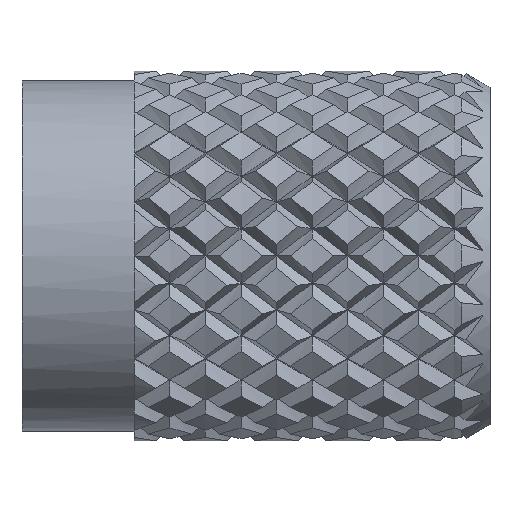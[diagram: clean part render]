
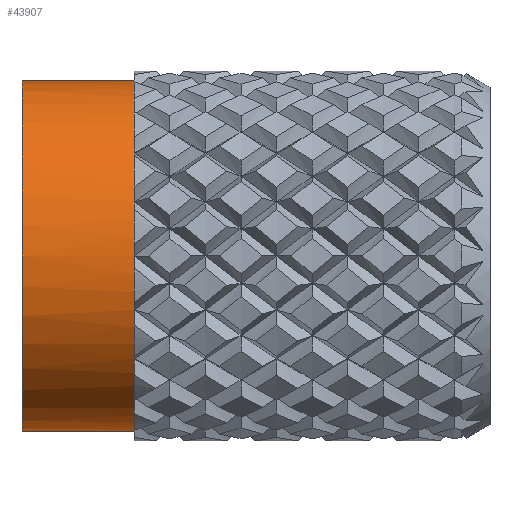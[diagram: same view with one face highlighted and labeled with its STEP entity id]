
A CAD part, left-side view. The second image highlights one B-rep face of the part: STEP entity #43907.
In plain terms, the highlighted cylindrical face has radius 2.375 mm (diameter 4.75 mm), a partial arc.
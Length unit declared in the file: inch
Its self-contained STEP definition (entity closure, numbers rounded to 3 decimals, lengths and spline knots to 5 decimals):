
#578 = EDGE_CURVE ( 'NONE', #7670, #55384, #8627, .T. ) ;
#818 = AXIS2_PLACEMENT_3D ( 'NONE', #40573, #10829, #20335 ) ;
#1117 = CIRCLE ( 'NONE', #50202, 0.0935 ) ;
#1258 = LINE ( 'NONE', #62562, #55220 ) ;
#2823 = DIRECTION ( 'NONE',  ( 0., 1., 0. ) ) ;
#4204 = AXIS2_PLACEMENT_3D ( 'NONE', #42709, #52797, #13147 ) ;
#4586 = AXIS2_PLACEMENT_3D ( 'NONE', #4939, #54702, #54910 ) ;
#4623 = VERTEX_POINT ( 'NONE', #38920 ) ;
#4939 = CARTESIAN_POINT ( 'NONE',  ( 0., -0.06, 0. ) ) ;
#5234 = CARTESIAN_POINT ( 'NONE',  ( -0.02889, -0.06, 0.08892 ) ) ;
#5899 = DIRECTION ( 'NONE',  ( 0., 0., 1. ) ) ;
#7510 = CARTESIAN_POINT ( 'NONE',  ( -0.08892, -0.06, 0.02889 ) ) ;
#7670 = VERTEX_POINT ( 'NONE', #54111 ) ;
#8196 = DIRECTION ( 'NONE',  ( 0., 0., 1. ) ) ;
#8627 = CIRCLE ( 'NONE', #57653, 0.0935 ) ;
#8864 = DIRECTION ( 'NONE',  ( 0., 0., 1. ) ) ;
#9125 = EDGE_CURVE ( 'NONE', #55384, #23083, #17641, .T. ) ;
#9484 = DIRECTION ( 'NONE',  ( 0., 0., -1. ) ) ;
#9736 = CARTESIAN_POINT ( 'NONE',  ( -0.0155, -0.06, -0.09221 ) ) ;
#10118 = ORIENTED_EDGE ( 'NONE', *, *, #61770, .F. ) ;
#10829 = DIRECTION ( 'NONE',  ( 0., -1., 0. ) ) ;
#10841 = DIRECTION ( 'NONE',  ( 0., -1., 0. ) ) ;
#12287 = VERTEX_POINT ( 'NONE', #52601 ) ;
#12306 = DIRECTION ( 'NONE',  ( 0., -1., 0. ) ) ;
#12900 = CARTESIAN_POINT ( 'NONE',  ( -0.07564, -0.06, 0.05496 ) ) ;
#12964 = DIRECTION ( 'NONE',  ( 0., -1., 0. ) ) ;
#13147 = DIRECTION ( 'NONE',  ( 0., 0., 1. ) ) ;
#14174 = ORIENTED_EDGE ( 'NONE', *, *, #23416, .F. ) ;
#14199 = DIRECTION ( 'NONE',  ( 0., 1., 0. ) ) ;
#14263 = CARTESIAN_POINT ( 'NONE',  ( 0., -0.06, -0.0935 ) ) ;
#16488 = ORIENTED_EDGE ( 'NONE', *, *, #40852, .F. ) ;
#17641 = CIRCLE ( 'NONE', #56410, 0.0935 ) ;
#18753 = DIRECTION ( 'NONE',  ( 0., -1., 0. ) ) ;
#19230 = EDGE_CURVE ( 'NONE', #40065, #41618, #29446, .T. ) ;
#19666 = EDGE_LOOP ( 'NONE', ( #60844, #41022, #36618, #55936, #16488, #56842, #14174, #26158, #24938, #34479, #10118, #47878, #21010, #42230, #51363 ) ) ;
#20335 = DIRECTION ( 'NONE',  ( 0., 0., 1. ) ) ;
#21010 = ORIENTED_EDGE ( 'NONE', *, *, #32069, .T. ) ;
#22071 = AXIS2_PLACEMENT_3D ( 'NONE', #47199, #12964, #42524 ) ;
#23083 = VERTEX_POINT ( 'NONE', #7510 ) ;
#23416 = EDGE_CURVE ( 'NONE', #27359, #40065, #43922, .T. ) ;
#23636 = DIRECTION ( 'NONE',  ( 0., 0., 1. ) ) ;
#24363 = DIRECTION ( 'NONE',  ( 0., 1., 0. ) ) ;
#24938 = ORIENTED_EDGE ( 'NONE', *, *, #9125, .F. ) ;
#25249 = CIRCLE ( 'NONE', #818, 0.0935 ) ;
#26158 = ORIENTED_EDGE ( 'NONE', *, *, #27817, .F. ) ;
#26609 = AXIS2_PLACEMENT_3D ( 'NONE', #61534, #61957, #56756 ) ;
#27264 = DIRECTION ( 'NONE',  ( 0., -1., 0. ) ) ;
#27323 = DIRECTION ( 'NONE',  ( 0., 0., 1. ) ) ;
#27359 = VERTEX_POINT ( 'NONE', #37348 ) ;
#27649 = CARTESIAN_POINT ( 'NONE',  ( 0., -0.06, 0.0935 ) ) ;
#27817 = EDGE_CURVE ( 'NONE', #23083, #27359, #25249, .T. ) ;
#28477 = DIRECTION ( 'NONE',  ( 0., -1., 0. ) ) ;
#29446 = CIRCLE ( 'NONE', #36346, 0.0935 ) ;
#29517 = EDGE_CURVE ( 'NONE', #44647, #33388, #1258, .T. ) ;
#30133 = EDGE_CURVE ( 'NONE', #47586, #33388, #45917, .T. ) ;
#30888 = CARTESIAN_POINT ( 'NONE',  ( 0., -0.06, 0. ) ) ;
#31747 = VECTOR ( 'NONE', #14199, 39.37008 ) ;
#32069 = EDGE_CURVE ( 'NONE', #4623, #44647, #52132, .T. ) ;
#32372 = EDGE_CURVE ( 'NONE', #53893, #12287, #44423, .T. ) ;
#32550 = AXIS2_PLACEMENT_3D ( 'NONE', #62410, #57862, #23636 ) ;
#33388 = VERTEX_POINT ( 'NONE', #48363 ) ;
#34479 = ORIENTED_EDGE ( 'NONE', *, *, #578, .F. ) ;
#35756 = EDGE_CURVE ( 'NONE', #4623, #61340, #1117, .T. ) ;
#35865 = CARTESIAN_POINT ( 'NONE',  ( 0., -0.06, 0. ) ) ;
#36346 = AXIS2_PLACEMENT_3D ( 'NONE', #38420, #28477, #8864 ) ;
#36618 = ORIENTED_EDGE ( 'NONE', *, *, #62365, .F. ) ;
#36761 = DIRECTION ( 'NONE',  ( 0., 0., 1. ) ) ;
#36802 = CARTESIAN_POINT ( 'NONE',  ( -0.05496, -0.06, -0.07564 ) ) ;
#36984 = AXIS2_PLACEMENT_3D ( 'NONE', #63164, #24363, #9484 ) ;
#37091 = DIRECTION ( 'NONE',  ( 0., 0., 1. ) ) ;
#37348 = CARTESIAN_POINT ( 'NONE',  ( -0.0935, -0.06, 0. ) ) ;
#38167 = AXIS2_PLACEMENT_3D ( 'NONE', #46927, #2823, #37091 ) ;
#38420 = CARTESIAN_POINT ( 'NONE',  ( 0., -0.06, 0. ) ) ;
#38920 = CARTESIAN_POINT ( 'NONE',  ( -0.0155, -0.06, 0.09221 ) ) ;
#39785 = AXIS2_PLACEMENT_3D ( 'NONE', #48216, #18753, #8196 ) ;
#40065 = VERTEX_POINT ( 'NONE', #42738 ) ;
#40573 = CARTESIAN_POINT ( 'NONE',  ( 0., -0.06, 0. ) ) ;
#40852 = EDGE_CURVE ( 'NONE', #41618, #53893, #52936, .T. ) ;
#41022 = ORIENTED_EDGE ( 'NONE', *, *, #54861, .T. ) ;
#41170 = CYLINDRICAL_SURFACE ( 'NONE', #32550, 0.0935 ) ;
#41537 = DIRECTION ( 'NONE',  ( 0., -1., 0. ) ) ;
#41618 = VERTEX_POINT ( 'NONE', #48879 ) ;
#42230 = ORIENTED_EDGE ( 'NONE', *, *, #29517, .T. ) ;
#42524 = DIRECTION ( 'NONE',  ( 0., 0., 1. ) ) ;
#42709 = CARTESIAN_POINT ( 'NONE',  ( 0., -0.06, 0. ) ) ;
#42738 = CARTESIAN_POINT ( 'NONE',  ( -0.08892, -0.06, -0.02889 ) ) ;
#42764 = FACE_OUTER_BOUND ( 'NONE', #19666, .T. ) ;
#43869 = CIRCLE ( 'NONE', #4586, 0.0935 ) ;
#43907 = ADVANCED_FACE ( 'NONE', ( #42764 ), #41170, .T. ) ;
#43922 = CIRCLE ( 'NONE', #26609, 0.0935 ) ;
#44423 = CIRCLE ( 'NONE', #39785, 0.0935 ) ;
#44647 = VERTEX_POINT ( 'NONE', #27649 ) ;
#44932 = AXIS2_PLACEMENT_3D ( 'NONE', #46202, #27264, #36761 ) ;
#45917 = CIRCLE ( 'NONE', #38167, 0.0935 ) ;
#46202 = CARTESIAN_POINT ( 'NONE',  ( 0., -0.06, 0. ) ) ;
#46927 = CARTESIAN_POINT ( 'NONE',  ( 0., 0., 0. ) ) ;
#47199 = CARTESIAN_POINT ( 'NONE',  ( 0., -0.06, 0. ) ) ;
#47586 = VERTEX_POINT ( 'NONE', #56625 ) ;
#47878 = ORIENTED_EDGE ( 'NONE', *, *, #35756, .F. ) ;
#48216 = CARTESIAN_POINT ( 'NONE',  ( 0., -0.06, 0. ) ) ;
#48363 = CARTESIAN_POINT ( 'NONE',  ( 0., 0., 0.0935 ) ) ;
#48799 = VERTEX_POINT ( 'NONE', #14263 ) ;
#48879 = CARTESIAN_POINT ( 'NONE',  ( -0.07564, -0.06, -0.05496 ) ) ;
#49196 = CIRCLE ( 'NONE', #4204, 0.0935 ) ;
#50202 = AXIS2_PLACEMENT_3D ( 'NONE', #35865, #10841, #5899 ) ;
#51363 = ORIENTED_EDGE ( 'NONE', *, *, #30133, .F. ) ;
#52132 = CIRCLE ( 'NONE', #36984, 0.0935 ) ;
#52601 = CARTESIAN_POINT ( 'NONE',  ( -0.02889, -0.06, -0.08892 ) ) ;
#52797 = DIRECTION ( 'NONE',  ( 0., -1., 0. ) ) ;
#52936 = CIRCLE ( 'NONE', #22071, 0.0935 ) ;
#53893 = VERTEX_POINT ( 'NONE', #36802 ) ;
#54045 = LINE ( 'NONE', #63148, #31747 ) ;
#54111 = CARTESIAN_POINT ( 'NONE',  ( -0.05496, -0.06, 0.07564 ) ) ;
#54702 = DIRECTION ( 'NONE',  ( 0., 1., 0. ) ) ;
#54861 = EDGE_CURVE ( 'NONE', #48799, #59321, #43869, .T. ) ;
#54910 = DIRECTION ( 'NONE',  ( 0., 0., -1. ) ) ;
#55220 = VECTOR ( 'NONE', #56940, 39.37008 ) ;
#55384 = VERTEX_POINT ( 'NONE', #12900 ) ;
#55936 = ORIENTED_EDGE ( 'NONE', *, *, #32372, .F. ) ;
#56410 = AXIS2_PLACEMENT_3D ( 'NONE', #30888, #12306, #56690 ) ;
#56625 = CARTESIAN_POINT ( 'NONE',  ( 0., 0., -0.0935 ) ) ;
#56690 = DIRECTION ( 'NONE',  ( 0., 0., 1. ) ) ;
#56756 = DIRECTION ( 'NONE',  ( 0., 0., 1. ) ) ;
#56842 = ORIENTED_EDGE ( 'NONE', *, *, #19230, .F. ) ;
#56940 = DIRECTION ( 'NONE',  ( 0., 1., 0. ) ) ;
#57653 = AXIS2_PLACEMENT_3D ( 'NONE', #61594, #41537, #27323 ) ;
#57862 = DIRECTION ( 'NONE',  ( 0., 1., 0. ) ) ;
#58206 = EDGE_CURVE ( 'NONE', #48799, #47586, #54045, .T. ) ;
#59321 = VERTEX_POINT ( 'NONE', #9736 ) ;
#60844 = ORIENTED_EDGE ( 'NONE', *, *, #58206, .F. ) ;
#61340 = VERTEX_POINT ( 'NONE', #5234 ) ;
#61534 = CARTESIAN_POINT ( 'NONE',  ( 0., -0.06, 0. ) ) ;
#61594 = CARTESIAN_POINT ( 'NONE',  ( 0., -0.06, 0. ) ) ;
#61770 = EDGE_CURVE ( 'NONE', #61340, #7670, #62430, .T. ) ;
#61957 = DIRECTION ( 'NONE',  ( 0., -1., 0. ) ) ;
#62365 = EDGE_CURVE ( 'NONE', #12287, #59321, #49196, .T. ) ;
#62410 = CARTESIAN_POINT ( 'NONE',  ( 0., -0.25, 0. ) ) ;
#62430 = CIRCLE ( 'NONE', #44932, 0.0935 ) ;
#62562 = CARTESIAN_POINT ( 'NONE',  ( 0., -0.25, 0.0935 ) ) ;
#63148 = CARTESIAN_POINT ( 'NONE',  ( 0., -0.25, -0.0935 ) ) ;
#63164 = CARTESIAN_POINT ( 'NONE',  ( 0., -0.06, 0. ) ) ;
